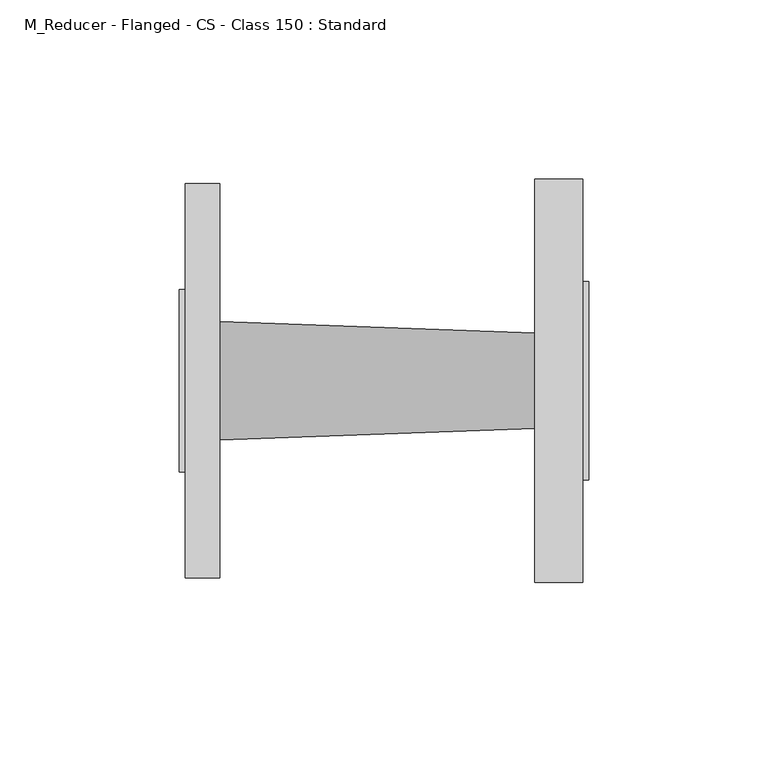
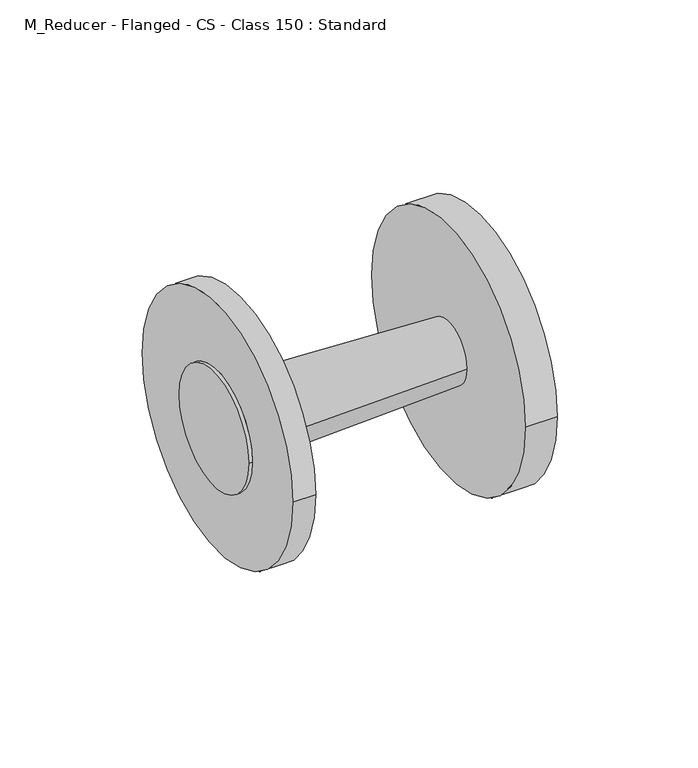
"""IFC4 building model written with IfcOpenShell, lengths in millimetres: pipe fitting geometry, M_Reducer - Flanged - CS - Class 150 : Standard."""

import ifcopenshell
import ifcopenshell.guid

model = None  # the IFC model being written
_history = None  # IfcOwnerHistory: only IFC2X3 demands one
_inside = {}  # id of a spatial element -> (the spatial element, [elements in it])
_under = {}  # id of a project, library or spatial element -> (it, [spatial elements below it])
_declared = {}  # id of a project -> (the project, [libraries it declares])
_typed = {}  # id of a type object -> (the type object, [elements of that type])
_made_of = {}  # id of a material, layer set ... -> (it, [elements and type objects made of it])


def new_model(schema):
    """Start an empty IFC model of exactly this schema.

    Asked for "IFC4X3", IfcOpenShell would pick the latest addendum, in which some entities
    have other attributes; the version numbers below select the first issue.
    IFC2X3 requires an IfcOwnerHistory on every rooted entity: one is made here for all.
    """
    global model, _history
    if schema == "IFC4X3":
        model = ifcopenshell.file(schema_version=(4, 3, 0, 0))
    else:
        model = ifcopenshell.file(schema=schema)
    _inside.clear()
    _under.clear()
    _declared.clear()
    _typed.clear()
    _made_of.clear()
    _history = None
    if model.schema == "IFC2X3":
        org = make("IfcOrganization", Name="unknown")
        user = make(
            "IfcPersonAndOrganization",
            ThePerson=make("IfcPerson", FamilyName="unknown"),
            TheOrganization=org,
        )
        app = make(
            "IfcApplication",
            ApplicationDeveloper=org,
            Version="unknown",
            ApplicationFullName="unknown",
            ApplicationIdentifier="unknown",
        )
        _history = make(
            "IfcOwnerHistory",
            OwningUser=user,
            OwningApplication=app,
            ChangeAction="ADDED",
            CreationDate=0,
        )
    return model


def make(cls, **values):
    """One entity of the class cls with the attributes given. An attribute that is None is left unset."""
    return model.create_entity(
        cls, **{name: value for name, value in values.items() if value is not None}
    )


def rooted(cls, **values):
    """An entity with a GlobalId (a new one), such as an element, a storey or a relation."""
    return make(cls, GlobalId=ifcopenshell.guid.new(), OwnerHistory=_history, **values)


def si_unit(unit_type, name, prefix=None):
    """IfcSIUnit, for example si_unit("LENGTHUNIT", "METRE", prefix="MILLI")."""
    return make("IfcSIUnit", UnitType=unit_type, Prefix=prefix, Name=name)


def assignment(units):
    """IfcUnitAssignment: the units of a project."""
    return None if units is None else make("IfcUnitAssignment", Units=units)


def point(xyz):
    """IfcCartesianPoint."""
    return None if xyz is None else make("IfcCartesianPoint", Coordinates=xyz)


def direction(xyz):
    """IfcDirection."""
    return None if xyz is None else make("IfcDirection", DirectionRatios=xyz)


def frame(location, z_axis=None, x_axis=None):
    """IfcAxis2Placement3D, a coordinate frame: its origin and axes. An axis left out is left unset."""
    return make(
        "IfcAxis2Placement3D",
        Location=point(location),
        Axis=direction(z_axis),
        RefDirection=direction(x_axis),
    )


def origin():
    """The frame at (0, 0, 0) with its axes left unset."""
    return frame((0.0, 0.0, 0.0))


def place(relative_to, where):
    """IfcLocalPlacement: puts the frame where relative to a parent placement (None: the world)."""
    return make(
        "IfcLocalPlacement", PlacementRelTo=relative_to, RelativePlacement=where
    )


def context(
    kind, dimensions, precision=None, world=None, true_north=None, identifier=None
):
    """IfcGeometricRepresentationContext, for example the 3D "Model" context."""
    return make(
        "IfcGeometricRepresentationContext",
        ContextIdentifier=identifier,
        ContextType=kind,
        CoordinateSpaceDimension=dimensions,
        Precision=precision,
        WorldCoordinateSystem=world,
        TrueNorth=true_north,
    )


def project(units=None, contexts=None):
    """IfcProject with its units and contexts."""
    return rooted(
        "IfcProject",
        Name="project",
        RepresentationContexts=contexts,
        UnitsInContext=assignment(units),
    )


def spatial(cls, under=None, at=None, **own):
    """A site, building, storey or space (cls), placed at a placement, below another one or the project."""
    s = rooted(cls, ObjectPlacement=at, **own)
    if under is not None:
        _under.setdefault(under.id(), (under, []))[1].append(s)
    return s


def polyline(points):
    """IfcPolyline through the points."""
    return make("IfcPolyline", Points=[point(p) for p in points])


def circle_curve(where, radius):
    """IfcCircle in the frame where."""
    return make("IfcCircle", Position=where, Radius=radius)


def shape(context_of_items, identifier, shape_type, items):
    """IfcShapeRepresentation: the items that make up one representation, for example the "Body"."""
    return make(
        "IfcShapeRepresentation",
        ContextOfItems=context_of_items,
        RepresentationIdentifier=identifier,
        RepresentationType=shape_type,
        Items=items,
    )


def source(mapping_origin, context_of_items, identifier, shape_type, items):
    """IfcRepresentationMap: a shape defined once, which mapped items show again and again."""
    return make(
        "IfcRepresentationMap",
        MappingOrigin=mapping_origin,
        MappedRepresentation=shape(context_of_items, identifier, shape_type, items),
    )


def transform(
    local_origin,
    x_axis=None,
    y_axis=None,
    z_axis=None,
    scale=None,
    scale2=None,
    scale3=None,
    uniform=True,
):
    """IfcCartesianTransformationOperator3D, or its non-uniform kind. x_axis, y_axis, z_axis: its Axis1, 2, 3."""
    if uniform:
        return make(
            "IfcCartesianTransformationOperator3D",
            Axis1=direction(x_axis),
            Axis2=direction(y_axis),
            LocalOrigin=point(local_origin),
            Scale=scale,
            Axis3=direction(z_axis),
        )
    return make(
        "IfcCartesianTransformationOperator3DnonUniform",
        Axis1=direction(x_axis),
        Axis2=direction(y_axis),
        LocalOrigin=point(local_origin),
        Scale=scale,
        Axis3=direction(z_axis),
        Scale2=scale2,
        Scale3=scale3,
    )


def mapped(mapping_source, mapping_target):
    """IfcMappedItem: shows the shape of a source again, moved by a transform."""
    return make(
        "IfcMappedItem", MappingSource=mapping_source, MappingTarget=mapping_target
    )


def made_of(thing, what):
    """Note that an element or type object is made of a material, layer set ...; save() writes the relation."""
    if what is not None:
        _made_of.setdefault(what.id(), (what, []))[1].append(thing)
    return thing


def element(
    cls,
    number,
    at=None,
    inside=None,
    cuts=None,
    type_object=None,
    material=None,
    context=None,
    identifier="Body",
    shape_type=None,
    held_by="IfcProductDefinitionShape",
    body=None,
    shapes=None,
    **own,
):
    """One element of the class cls, such as IfcWall. Its Tag is "e" and its number.

    at: its placement. inside: the storey or other place that contains it. cuts: it is an
    opening in that element (IfcRelVoidsElement). A single representation is given by context,
    identifier, shape_type and body (its items); several are given by shapes. held_by: the class
    of the entity that holds the representations. save() writes the other relations.
    """
    e = rooted(cls, Tag="e%d" % number, ObjectPlacement=at, **own)
    if body is not None:
        shapes = [shape(context, identifier, shape_type, body)]
    if shapes is not None:
        e.Representation = make(held_by, Representations=shapes)
    if inside is not None:
        _inside.setdefault(inside.id(), (inside, []))[1].append(e)
    if cuts is not None:
        rooted(
            "IfcRelVoidsElement", RelatingBuildingElement=cuts, RelatedOpeningElement=e
        )
    if type_object is not None:
        _typed.setdefault(type_object.id(), (type_object, []))[1].append(e)
    return made_of(e, material)


def aggregate(whole, parts):
    """IfcRelAggregates: a whole, such as a stair, and the parts it consists of."""
    return rooted("IfcRelAggregates", RelatingObject=whole, RelatedObjects=parts)


def save(model, path):
    """Write the relations noted so far, then the file.

    IfcRelAggregates (storeys below a building ...), IfcRelContainedInSpatialStructure (elements
    in a storey), IfcRelDefinesByType, IfcRelAssociatesMaterial and IfcRelDeclares: one each for
    every whole, place, type object, material and project.
    """
    for whole, parts in _under.values():
        aggregate(whole, parts)
    for where, things in _inside.values():
        rooted(
            "IfcRelContainedInSpatialStructure",
            RelatedElements=things,
            RelatingStructure=where,
        )
    for kind, things in _typed.values():
        rooted("IfcRelDefinesByType", RelatedObjects=things, RelatingType=kind)
    for what, things in _made_of.values():
        rooted("IfcRelAssociatesMaterial", RelatedObjects=things, RelatingMaterial=what)
    for by, libraries in _declared.values():
        rooted("IfcRelDeclares", RelatingContext=by, RelatedDefinitions=libraries)
    model.write(path)


def plane_surface(at):
    """IfcPlane: the flat surface through the origin of the frame at, square to its z axis."""
    return make("IfcPlane", Position=at)


def cylinder_surface(at, radius):
    """IfcCylindricalSurface: all points at the distance radius from the z axis of the frame at."""
    return make("IfcCylindricalSurface", Position=at, Radius=radius)


def revolved_surface(curve, axis_point, axis_direction):
    """IfcSurfaceOfRevolution: the curve turned about the line through axis_point along axis_direction."""
    return make(
        "IfcSurfaceOfRevolution",
        SweptCurve=make("IfcArbitraryOpenProfileDef", ProfileType="CURVE", Curve=curve),
        AxisPosition=make("IfcAxis1Placement", Location=point(axis_point), Axis=direction(axis_direction)),
    )


def advanced_brep(points, edges, surfaces, faces):
    """IfcAdvancedBrep: a solid bounded by faces that lie on surfaces and meet in shared edges.

    An edge is (start, end): straight between two places in points (the first is 0);
    or (start, end, curve); or (start, end, curve, False) where it runs against its curve.
    A face is (place in surfaces, loops), or (place, loops, False) where it looks against
    its surface's normal. A loop lists edges by number (the first is 1), with a minus sign
    where the edge is run from its end to its start. The first loop is the outer one.
    """
    corners = [point(p) for p in points]
    vertices = [make("IfcVertexPoint", VertexGeometry=c) for c in corners]
    made = []
    for start, end, *more in edges:
        made.append(
            make(
                "IfcEdgeCurve",
                EdgeStart=vertices[start],
                EdgeEnd=vertices[end],
                EdgeGeometry=more[0] if more else make("IfcPolyline", Points=[corners[start], corners[end]]),
                SameSense=more[1] if len(more) > 1 else True,
            )
        )
    hull = []
    for where, loops, *sense in faces:
        bounds = []
        for j, loop in enumerate(loops):
            ring = [make("IfcOrientedEdge", EdgeElement=made[abs(k) - 1], Orientation=k > 0) for k in loop]
            bounds.append(
                make(
                    "IfcFaceOuterBound" if j == 0 else "IfcFaceBound",
                    Bound=make("IfcEdgeLoop", EdgeList=ring),
                    Orientation=True,
                )
            )
        hull.append(make("IfcAdvancedFace", Bounds=bounds, FaceSurface=surfaces[where], SameSense=sense[0] if sense else True))
    return make("IfcAdvancedBrep", Outer=make("IfcClosedShell", CfsFaces=hull))


def m_reducer_flanged_cs_class_150_standard_ccf252ad(model_context):
    return source(origin(), model_context, "Body", "AdvancedBrep", [
        advanced_brep(
        [(11.1875, -55.0, 0.0), (11.1875, 55.0, 0.0), (11.1875, 16.5, 0.0), (11.1875, -16.5, 0.0), (1.5875, -55.0, 0.0), (1.5875, 55.0, 0.0), (1.5875, -25.4, 0.0), (1.5875, 25.4, 0.0), (99.0109375, 13.2558594, 0.0), (99.0109375, -13.2558594, 0.0), (112.4125, -56.1554688, 0.0), (112.4125, 56.1554687, 0.0), (112.4125, 27.5976562, 0.0), (112.4125, -27.5976563, 0.0), (99.0109375, -56.1554688, 0.0), (99.0109375, 56.1554687, 0.0), (0.0, -25.4, 0.0), (0.0, 25.4, 0.0), (114.0, -27.5976563, 0.0), (114.0, 27.5976562, 0.0)],
        [
            (0, 1, circle_curve(frame((11.1875, 0.0, 0.0), z_axis=(1.0, 0.0, 0.0), x_axis=(0.0, 1.0, 0.0)), 55.0)),
            (1, 0, circle_curve(frame((11.1875, 0.0, 0.0), z_axis=(1.0, 0.0, 0.0), x_axis=(0.0, 1.0, 0.0)), 55.0)),
            (2, 3, circle_curve(frame((11.1875, 0.0, 0.0), z_axis=(-1.0, 0.0, 0.0), x_axis=(0.0, -1.0, 0.0)), 16.5)),
            (3, 2, circle_curve(frame((11.1875, 0.0, 0.0), z_axis=(-1.0, 0.0, 0.0), x_axis=(0.0, 1.0, 0.0)), 16.5)),
            (4, 5, circle_curve(frame((1.5875, 0.0, 0.0), z_axis=(-1.0, 0.0, 0.0), x_axis=(0.0, 1.0, 0.0)), 55.0)),
            (5, 4, circle_curve(frame((1.5875, 0.0, 0.0), z_axis=(-1.0, 0.0, 0.0), x_axis=(0.0, 1.0, 0.0)), 55.0)),
            (6, 7, circle_curve(frame((1.5875, 0.0, 0.0), z_axis=(1.0, 0.0, 0.0), x_axis=(0.0, 1.0, 0.0)), 25.4)),
            (7, 6, circle_curve(frame((1.5875, 0.0, 0.0), z_axis=(1.0, 0.0, 0.0), x_axis=(0.0, 1.0, 0.0)), 25.4)),
            (0, 4),
            (5, 1),
            (2, 8),
            (8, 9, circle_curve(frame((99.0109375, 0.0, 0.0), z_axis=(-1.0, 0.0, 0.0), x_axis=(0.0, -1.0, 0.0)), 13.2558594)),
            (9, 3),
            (9, 8, circle_curve(frame((99.0109375, 0.0, 0.0), z_axis=(-1.0, 0.0, 0.0), x_axis=(0.0, 1.0, 0.0)), 13.2558594)),
            (10, 11, circle_curve(frame((112.4125, 0.0, 0.0), z_axis=(1.0, 0.0, 0.0), x_axis=(0.0, 1.0, 0.0)), 56.1554687)),
            (11, 10, circle_curve(frame((112.4125, 0.0, 0.0), z_axis=(1.0, 0.0, 0.0), x_axis=(0.0, 1.0, 0.0)), 56.1554687)),
            (12, 13, circle_curve(frame((112.4125, 0.0, 0.0), z_axis=(-1.0, 0.0, 0.0), x_axis=(0.0, 1.0, 0.0)), 27.5976563)),
            (13, 12, circle_curve(frame((112.4125, 0.0, 0.0), z_axis=(-1.0, 0.0, 0.0), x_axis=(0.0, 1.0, 0.0)), 27.5976563)),
            (14, 15, circle_curve(frame((99.0109375, 0.0, 0.0), z_axis=(-1.0, 0.0, 0.0), x_axis=(0.0, 1.0, 0.0)), 56.1554687)),
            (15, 14, circle_curve(frame((99.0109375, 0.0, 0.0), z_axis=(-1.0, 0.0, 0.0), x_axis=(0.0, 1.0, 0.0)), 56.1554687)),
            (10, 14),
            (15, 11),
            (16, 17, circle_curve(frame((0.0, 0.0, 0.0), z_axis=(-1.0, 0.0, 0.0), x_axis=(0.0, 1.0, 0.0)), 25.4)),
            (17, 16, circle_curve(frame((0.0, 0.0, 0.0), z_axis=(-1.0, 0.0, 0.0), x_axis=(0.0, 1.0, 0.0)), 25.4)),
            (17, 7),
            (6, 16),
            (18, 19, circle_curve(frame((114.0, 0.0, 0.0), z_axis=(1.0, 0.0, 0.0), x_axis=(0.0, 1.0, 0.0)), 27.5976563)),
            (19, 18, circle_curve(frame((114.0, 0.0, 0.0), z_axis=(1.0, 0.0, 0.0), x_axis=(0.0, 1.0, 0.0)), 27.5976563)),
            (18, 13),
            (12, 19),
        ],
        [
            plane_surface(frame((11.1875, 55.0, 0.0), z_axis=(1.0, 0.0, 0.0), x_axis=(0.0, 0.0, 1.0))),
            plane_surface(frame((1.5875, 55.0, 0.0), z_axis=(-1.0, 0.0, 0.0), x_axis=(0.0, 0.0, -1.0))),
            cylinder_surface(frame((1.5875, 0.0, 0.0), z_axis=(1.0, 0.0, 0.0), x_axis=(0.0, 1.0, 0.0)), 55.0),
            revolved_surface(polyline([(99.01093750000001, 13.255859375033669, 0.0), (11.1875, 16.5, 0.0)]), (457.8656457, 0.0, 0.0), (-1.0, 0.0, 0.0)),
            plane_surface(frame((112.4125, 56.1554687, 0.0), z_axis=(1.0, 0.0, 0.0), x_axis=(0.0, 0.0, 1.0))),
            plane_surface(frame((99.0109375, 56.1554687, 0.0), z_axis=(-1.0, 0.0, 0.0), x_axis=(0.0, 0.0, -1.0))),
            cylinder_surface(frame((99.0109375, 0.0, 0.0), z_axis=(1.0, 0.0, 0.0), x_axis=(0.0, 1.0, 0.0)), 56.1554687),
            plane_surface(frame((0.0, 25.4, 0.0), z_axis=(-1.0, 0.0, 0.0), x_axis=(0.0, 0.0, -1.0))),
            cylinder_surface(frame((0.0, 0.0, 0.0), z_axis=(1.0, 0.0, 0.0), x_axis=(0.0, 1.0, 0.0)), 25.4),
            plane_surface(frame((114.0, 27.5976562, 0.0), z_axis=(1.0, 0.0, 0.0), x_axis=(0.0, 0.0, 1.0))),
            cylinder_surface(frame((112.4125, 0.0, 0.0), z_axis=(1.0, 0.0, 0.0), x_axis=(0.0, 1.0, 0.0)), 27.5976563),
        ],
        [
            (0, [[1, 2], [3, 4]]),
            (1, [[5, 6], [7, 8]]),
            (2, [[-1, 9, -6, 10]]),
            (2, [[-2, -10, -5, -9]]),
            (3, [[11, 12, 13, -3]]),
            (3, [[-11, -4, -13, 14]]),
            (4, [[15, 16], [17, 18]]),
            (5, [[19, 20], [-12, -14]]),
            (6, [[-15, 21, -20, 22]]),
            (6, [[-16, -22, -19, -21]]),
            (7, [[23, 24]]),
            (8, [[-24, 25, -7, 26]]),
            (8, [[-23, -26, -8, -25]]),
            (9, [[27, 28]]),
            (10, [[-27, 29, -17, 30]]),
            (10, [[-28, -30, -18, -29]]),
        ],
    ),
    ])


if __name__ == "__main__":
    model = new_model("IFC4")
    model_context = context("Model", 3, world=origin())
    ifc_project = project(units=[si_unit("LENGTHUNIT", "METRE", prefix="MILLI")], contexts=[model_context])
    site = spatial("IfcSite", under=ifc_project)
    building = spatial("IfcBuilding", under=site)
    placement = place(None, origin())
    m_reducer_flanged_cs_class_150_standard_shape = m_reducer_flanged_cs_class_150_standard_ccf252ad(model_context)
    element("IfcPipeFitting", 1, ObjectType="M_Reducer - Flanged - CS - Class 150 : Standard", at=placement, inside=building, context=model_context, shape_type="MappedRepresentation", body=[
        mapped(m_reducer_flanged_cs_class_150_standard_shape, transform((0.0, 0.0, 0.0), x_axis=(1.0, 0.0, 0.0), y_axis=(0.0, 1.0, 0.0), z_axis=(0.0, 0.0, 1.0))),
    ])
    save(model, "model.ifc")
